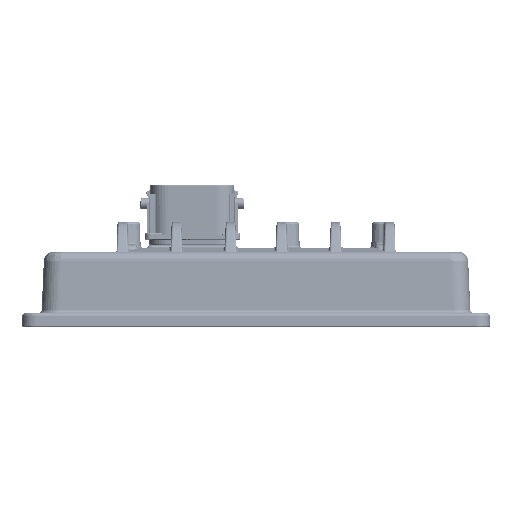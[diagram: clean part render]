
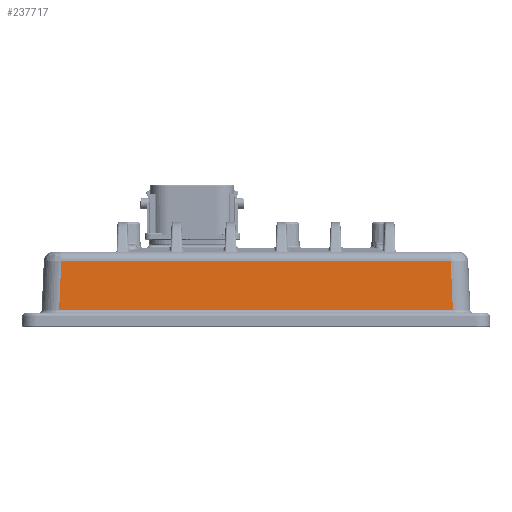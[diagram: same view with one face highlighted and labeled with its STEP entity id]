
A CAD part, left-side view. The second image highlights one B-rep face of the part: STEP entity #237717.
In plain terms, the highlighted planar face has unit normal (-0.999, 0, 0.044).
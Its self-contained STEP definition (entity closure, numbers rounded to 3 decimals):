
#21713=LINE('',#424154,#37788);
#21723=LINE('',#424348,#37798);
#21725=LINE('',#424385,#37800);
#21726=LINE('',#424386,#37801);
#37788=VECTOR('',#297949,10.);
#37798=VECTOR('',#298007,10.);
#37800=VECTOR('',#298017,10.);
#37801=VECTOR('',#298018,10.);
#53797=PLANE('',#256990);
#63793=FACE_OUTER_BOUND('',#77791,.T.);
#77791=EDGE_LOOP('',(#180177,#180178,#180179,#180180));
#101902=VERTEX_POINT('',#424148);
#101903=VERTEX_POINT('',#424152);
#101912=VERTEX_POINT('',#424342);
#101913=VERTEX_POINT('',#424346);
#129727=EDGE_CURVE('',#101903,#101902,#21713,.T.);
#129752=EDGE_CURVE('',#101913,#101912,#21723,.T.);
#129756=EDGE_CURVE('',#101912,#101903,#21725,.T.);
#129757=EDGE_CURVE('',#101902,#101913,#21726,.T.);
#180177=ORIENTED_EDGE('',*,*,#129727,.F.);
#180178=ORIENTED_EDGE('',*,*,#129756,.F.);
#180179=ORIENTED_EDGE('',*,*,#129752,.F.);
#180180=ORIENTED_EDGE('',*,*,#129757,.F.);
#237717=ADVANCED_FACE('',(#63793),#53797,.T.);
#256990=AXIS2_PLACEMENT_3D('',#424384,#298015,#298016);
#297949=DIRECTION('',(0.,-1.,0.));
#298007=DIRECTION('',(0.,1.,0.));
#298015=DIRECTION('center_axis',(-0.999,0.,
0.044));
#298016=DIRECTION('ref_axis',(0.044,0.,0.999));
#298017=DIRECTION('',(0.044,-0.044,0.998));
#298018=DIRECTION('',(-0.044,-0.044,-0.998));
#424148=CARTESIAN_POINT('',(-157.7,-61.205,-0.219));
#424152=CARTESIAN_POINT('',(-157.7,61.205,-0.219));
#424154=CARTESIAN_POINT('',(-157.7,-33.707,-0.219));
#424342=CARTESIAN_POINT('',(-158.371,61.876,-15.594));
#424346=CARTESIAN_POINT('',(-158.371,-61.876,-15.594));
#424348=CARTESIAN_POINT('',(-158.371,-33.707,-15.594));
#424384=CARTESIAN_POINT('Origin',(-158.413,-67.413,-16.55));
#424385=CARTESIAN_POINT('',(-158.295,61.801,-13.857));
#424386=CARTESIAN_POINT('',(-158.123,-61.628,-9.899));
